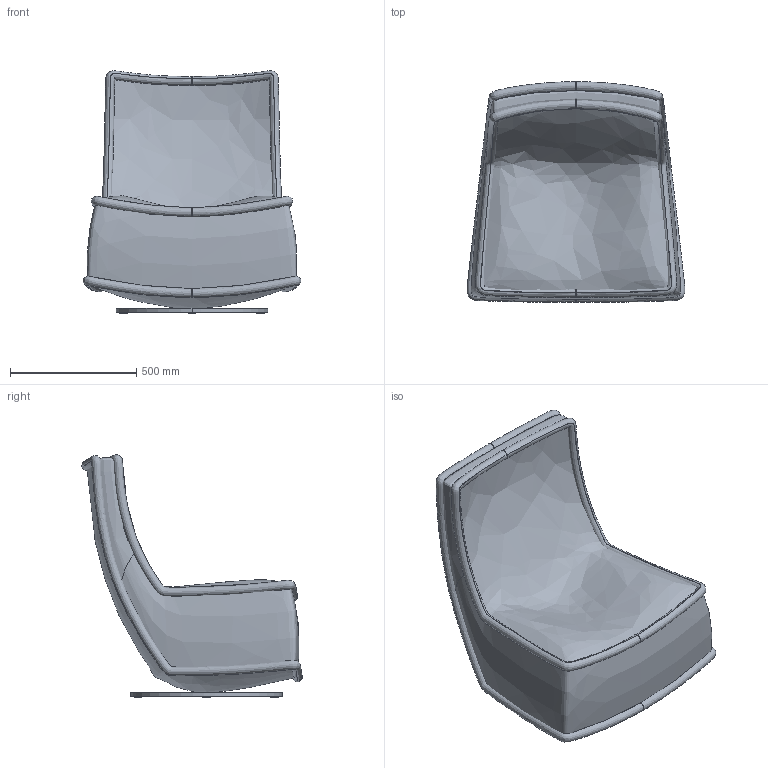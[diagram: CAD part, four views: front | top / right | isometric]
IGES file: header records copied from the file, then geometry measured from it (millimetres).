
Global section: file name: K:\Marketing\marketing\2D-3D PRODOTTI\2026_NUOVI PRODOTTI\Bonheur\Bonheur du jour_3D.igs; native system: Rhinoceros ( Jun  9 2026 ); preprocessor: Trout Lake IGES 012 Jun  9 2026; date: 260831.081324; units: millimetre
Bounding box: 861.97 x 871.02 x 959.57 mm (x, y, z)
Surface area: 4144295.2 mm2 (no closed solid volume)
Topology: 0 solids, 0 shells, 35 faces, 144 edges, 144 vertices
Faces by surface type: bspline 35
